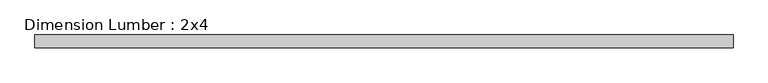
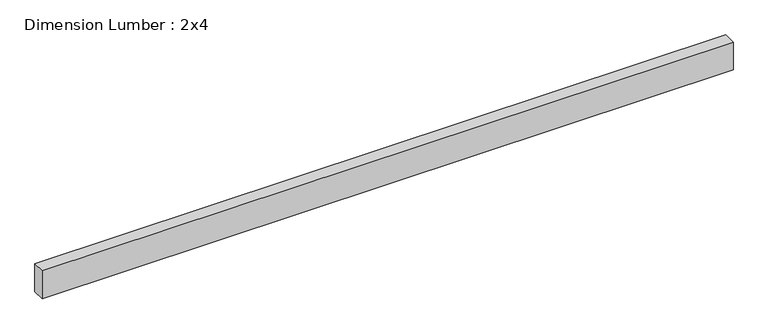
"""IFC4 building model written with IfcOpenShell, lengths in millimetres: beam geometry, Dimension Lumber : 2x4."""

import ifcopenshell
import ifcopenshell.guid

model = None  # the IFC model being written
_history = None  # IfcOwnerHistory: only IFC2X3 demands one
_inside = {}  # id of a spatial element -> (the spatial element, [elements in it])
_under = {}  # id of a project, library or spatial element -> (it, [spatial elements below it])
_declared = {}  # id of a project -> (the project, [libraries it declares])
_typed = {}  # id of a type object -> (the type object, [elements of that type])
_made_of = {}  # id of a material, layer set ... -> (it, [elements and type objects made of it])


def new_model(schema):
    """Start an empty IFC model of exactly this schema.

    Asked for "IFC4X3", IfcOpenShell would pick the latest addendum, in which some entities
    have other attributes; the version numbers below select the first issue.
    IFC2X3 requires an IfcOwnerHistory on every rooted entity: one is made here for all.
    """
    global model, _history
    if schema == "IFC4X3":
        model = ifcopenshell.file(schema_version=(4, 3, 0, 0))
    else:
        model = ifcopenshell.file(schema=schema)
    _inside.clear()
    _under.clear()
    _declared.clear()
    _typed.clear()
    _made_of.clear()
    _history = None
    if model.schema == "IFC2X3":
        org = make("IfcOrganization", Name="unknown")
        user = make(
            "IfcPersonAndOrganization",
            ThePerson=make("IfcPerson", FamilyName="unknown"),
            TheOrganization=org,
        )
        app = make(
            "IfcApplication",
            ApplicationDeveloper=org,
            Version="unknown",
            ApplicationFullName="unknown",
            ApplicationIdentifier="unknown",
        )
        _history = make(
            "IfcOwnerHistory",
            OwningUser=user,
            OwningApplication=app,
            ChangeAction="ADDED",
            CreationDate=0,
        )
    return model


def make(cls, **values):
    """One entity of the class cls with the attributes given. An attribute that is None is left unset."""
    return model.create_entity(
        cls, **{name: value for name, value in values.items() if value is not None}
    )


def rooted(cls, **values):
    """An entity with a GlobalId (a new one), such as an element, a storey or a relation."""
    return make(cls, GlobalId=ifcopenshell.guid.new(), OwnerHistory=_history, **values)


def si_unit(unit_type, name, prefix=None):
    """IfcSIUnit, for example si_unit("LENGTHUNIT", "METRE", prefix="MILLI")."""
    return make("IfcSIUnit", UnitType=unit_type, Prefix=prefix, Name=name)


def assignment(units):
    """IfcUnitAssignment: the units of a project."""
    return None if units is None else make("IfcUnitAssignment", Units=units)


def point(xyz):
    """IfcCartesianPoint."""
    return None if xyz is None else make("IfcCartesianPoint", Coordinates=xyz)


def direction(xyz):
    """IfcDirection."""
    return None if xyz is None else make("IfcDirection", DirectionRatios=xyz)


def frame(location, z_axis=None, x_axis=None):
    """IfcAxis2Placement3D, a coordinate frame: its origin and axes. An axis left out is left unset."""
    return make(
        "IfcAxis2Placement3D",
        Location=point(location),
        Axis=direction(z_axis),
        RefDirection=direction(x_axis),
    )


def origin():
    """The frame at (0, 0, 0) with its axes left unset."""
    return frame((0.0, 0.0, 0.0))


def place(relative_to, where):
    """IfcLocalPlacement: puts the frame where relative to a parent placement (None: the world)."""
    return make(
        "IfcLocalPlacement", PlacementRelTo=relative_to, RelativePlacement=where
    )


def context(
    kind, dimensions, precision=None, world=None, true_north=None, identifier=None
):
    """IfcGeometricRepresentationContext, for example the 3D "Model" context."""
    return make(
        "IfcGeometricRepresentationContext",
        ContextIdentifier=identifier,
        ContextType=kind,
        CoordinateSpaceDimension=dimensions,
        Precision=precision,
        WorldCoordinateSystem=world,
        TrueNorth=true_north,
    )


def project(units=None, contexts=None):
    """IfcProject with its units and contexts."""
    return rooted(
        "IfcProject",
        Name="project",
        RepresentationContexts=contexts,
        UnitsInContext=assignment(units),
    )


def spatial(cls, under=None, at=None, **own):
    """A site, building, storey or space (cls), placed at a placement, below another one or the project."""
    s = rooted(cls, ObjectPlacement=at, **own)
    if under is not None:
        _under.setdefault(under.id(), (under, []))[1].append(s)
    return s


def polyline(points):
    """IfcPolyline through the points."""
    return make("IfcPolyline", Points=[point(p) for p in points])


def outline(outer, holes=None, kind="AREA"):
    """IfcArbitraryClosedProfileDef: a profile drawn as a closed curve; with holes, ...WithVoids."""
    if holes is None:
        return make("IfcArbitraryClosedProfileDef", ProfileType=kind, OuterCurve=outer)
    return make(
        "IfcArbitraryProfileDefWithVoids",
        ProfileType=kind,
        OuterCurve=outer,
        InnerCurves=holes,
    )


def extrude(swept, where, along, depth):
    """IfcExtrudedAreaSolid: the profile swept, set in the frame where, extruded along a direction by depth."""
    return make(
        "IfcExtrudedAreaSolid",
        SweptArea=swept,
        Position=where,
        ExtrudedDirection=direction(along),
        Depth=depth,
    )


def shape(context_of_items, identifier, shape_type, items):
    """IfcShapeRepresentation: the items that make up one representation, for example the "Body"."""
    return make(
        "IfcShapeRepresentation",
        ContextOfItems=context_of_items,
        RepresentationIdentifier=identifier,
        RepresentationType=shape_type,
        Items=items,
    )


def source(mapping_origin, context_of_items, identifier, shape_type, items):
    """IfcRepresentationMap: a shape defined once, which mapped items show again and again."""
    return make(
        "IfcRepresentationMap",
        MappingOrigin=mapping_origin,
        MappedRepresentation=shape(context_of_items, identifier, shape_type, items),
    )


def transform(
    local_origin,
    x_axis=None,
    y_axis=None,
    z_axis=None,
    scale=None,
    scale2=None,
    scale3=None,
    uniform=True,
):
    """IfcCartesianTransformationOperator3D, or its non-uniform kind. x_axis, y_axis, z_axis: its Axis1, 2, 3."""
    if uniform:
        return make(
            "IfcCartesianTransformationOperator3D",
            Axis1=direction(x_axis),
            Axis2=direction(y_axis),
            LocalOrigin=point(local_origin),
            Scale=scale,
            Axis3=direction(z_axis),
        )
    return make(
        "IfcCartesianTransformationOperator3DnonUniform",
        Axis1=direction(x_axis),
        Axis2=direction(y_axis),
        LocalOrigin=point(local_origin),
        Scale=scale,
        Axis3=direction(z_axis),
        Scale2=scale2,
        Scale3=scale3,
    )


def mapped(mapping_source, mapping_target):
    """IfcMappedItem: shows the shape of a source again, moved by a transform."""
    return make(
        "IfcMappedItem", MappingSource=mapping_source, MappingTarget=mapping_target
    )


def made_of(thing, what):
    """Note that an element or type object is made of a material, layer set ...; save() writes the relation."""
    if what is not None:
        _made_of.setdefault(what.id(), (what, []))[1].append(thing)
    return thing


def element(
    cls,
    number,
    at=None,
    inside=None,
    cuts=None,
    type_object=None,
    material=None,
    context=None,
    identifier="Body",
    shape_type=None,
    held_by="IfcProductDefinitionShape",
    body=None,
    shapes=None,
    **own,
):
    """One element of the class cls, such as IfcWall. Its Tag is "e" and its number.

    at: its placement. inside: the storey or other place that contains it. cuts: it is an
    opening in that element (IfcRelVoidsElement). A single representation is given by context,
    identifier, shape_type and body (its items); several are given by shapes. held_by: the class
    of the entity that holds the representations. save() writes the other relations.
    """
    e = rooted(cls, Tag="e%d" % number, ObjectPlacement=at, **own)
    if body is not None:
        shapes = [shape(context, identifier, shape_type, body)]
    if shapes is not None:
        e.Representation = make(held_by, Representations=shapes)
    if inside is not None:
        _inside.setdefault(inside.id(), (inside, []))[1].append(e)
    if cuts is not None:
        rooted(
            "IfcRelVoidsElement", RelatingBuildingElement=cuts, RelatedOpeningElement=e
        )
    if type_object is not None:
        _typed.setdefault(type_object.id(), (type_object, []))[1].append(e)
    return made_of(e, material)


def aggregate(whole, parts):
    """IfcRelAggregates: a whole, such as a stair, and the parts it consists of."""
    return rooted("IfcRelAggregates", RelatingObject=whole, RelatedObjects=parts)


def save(model, path):
    """Write the relations noted so far, then the file.

    IfcRelAggregates (storeys below a building ...), IfcRelContainedInSpatialStructure (elements
    in a storey), IfcRelDefinesByType, IfcRelAssociatesMaterial and IfcRelDeclares: one each for
    every whole, place, type object, material and project.
    """
    for whole, parts in _under.values():
        aggregate(whole, parts)
    for where, things in _inside.values():
        rooted(
            "IfcRelContainedInSpatialStructure",
            RelatedElements=things,
            RelatingStructure=where,
        )
    for kind, things in _typed.values():
        rooted("IfcRelDefinesByType", RelatedObjects=things, RelatingType=kind)
    for what, things in _made_of.values():
        rooted("IfcRelAssociatesMaterial", RelatedObjects=things, RelatingMaterial=what)
    for by, libraries in _declared.values():
        rooted("IfcRelDeclares", RelatingContext=by, RelatedDefinitions=libraries)
    model.write(path)


def dimension_lumber_2x4_e5ad9b41(model_context):
    return source(origin(), model_context, "Body", "SweptSolid", [
        extrude(outline(polyline([(1044.5323647, 19.05), (1044.5323647, -19.05), (-1044.5323647, -19.05), (-1044.5323647, 19.05), (1044.5323647, 19.05)])), frame((0.0, 0.0, -44.45), z_axis=(0.0, 0.0, 1.0), x_axis=(1.0, 0.0, 0.0)), (0.0, 0.0, 1.0), 88.9),
    ])


if __name__ == "__main__":
    model = new_model("IFC4")
    model_context = context("Model", 3, world=origin())
    ifc_project = project(units=[si_unit("LENGTHUNIT", "METRE", prefix="MILLI")], contexts=[model_context])
    site = spatial("IfcSite", under=ifc_project)
    building = spatial("IfcBuilding", under=site)
    placement = place(None, origin())
    dimension_lumber_2x4_shape = dimension_lumber_2x4_e5ad9b41(model_context)
    element("IfcBeam", 1, ObjectType="Dimension Lumber : 2x4", at=placement, inside=building, context=model_context, shape_type="MappedRepresentation", body=[
        mapped(dimension_lumber_2x4_shape, transform((0.0, 0.0, 0.0), x_axis=(1.0, 0.0, 0.0), y_axis=(0.0, 1.0, 0.0), z_axis=(0.0, 0.0, 1.0))),
    ])
    save(model, "model.ifc")
